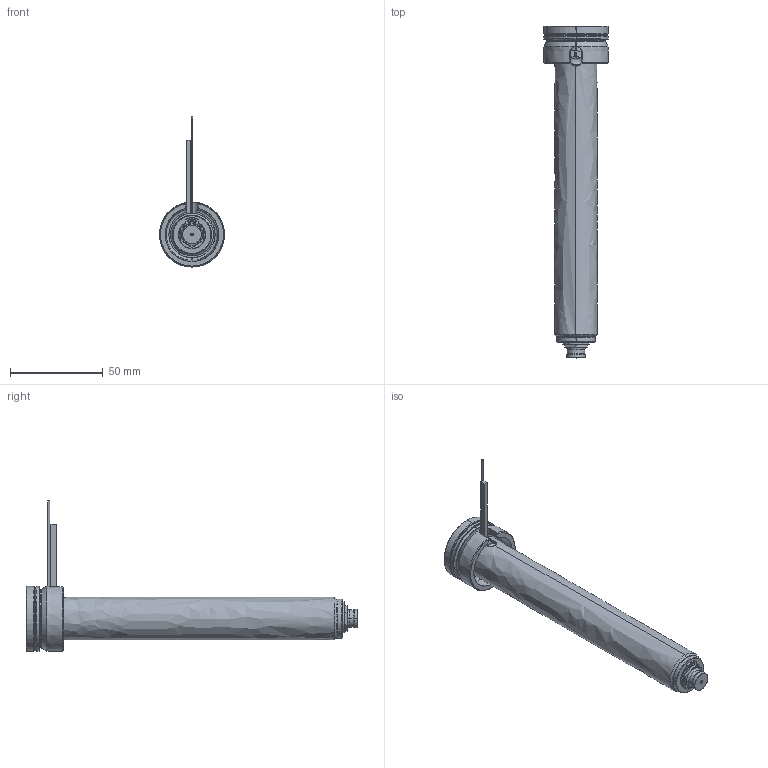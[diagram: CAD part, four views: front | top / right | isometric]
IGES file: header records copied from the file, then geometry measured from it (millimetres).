
Start section: SolidWorks IGES file using analytic representation for surfaces
Global section: file name: C:\Documents and Settings\ws-20\Desktop\TEM\UGEP3154-S-A-0 [Øf-0.50 P-0 ØC-6.0].IGS; native system: SolidWorks 2012; preprocessor: SolidWorks 2012; author: ws-20; date: 120404.081058; units: millimetre
Bounding box: 35 x 179 x 80.9 mm (x, y, z)
Surface area: 25830.5 mm2 (no closed solid volume)
Topology: 0 solids, 0 shells, 127 faces, 1944 edges, 1944 vertices
Faces by surface type: revolution 77, bspline 50
